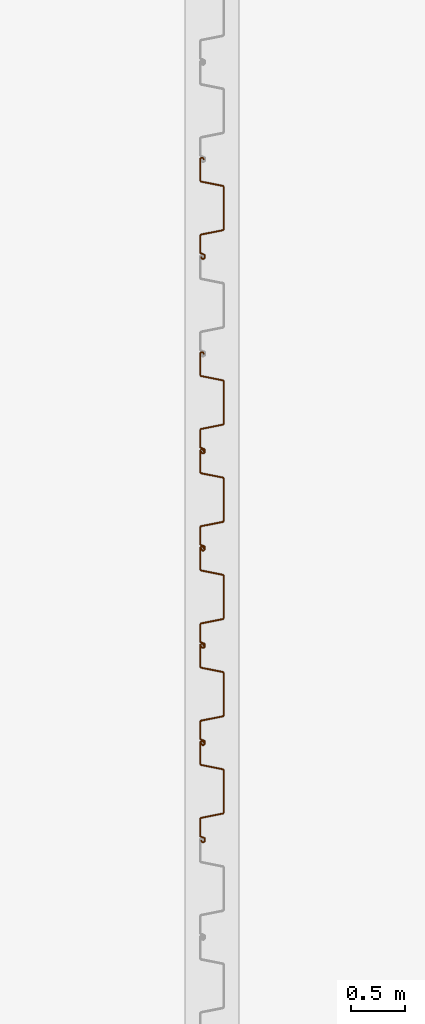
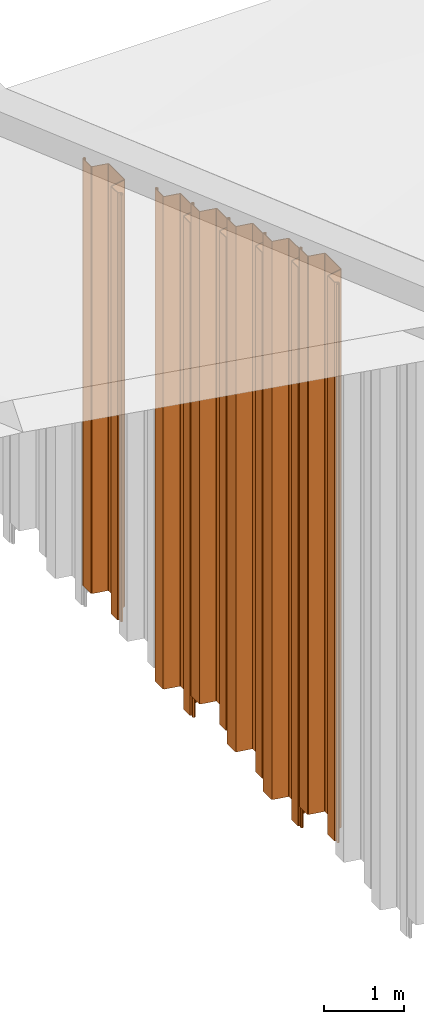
# One storey, part 30 of 32: 6 proxies.
"""IFC2X3 building model written with IfcOpenShell, lengths in millimetres."""

from ifc_helpers import new_model, entity, si_unit, converted_unit, derived_unit, direction, frame, frame_2d, origin, place, context, subcontext, project, spatial, polyline, circle_curve, parameter, trimmed, segment, composite_curve, outline, extrude, source, transform, mapped, type_object, type_shapes, element, save


model = new_model("IFC2X3")

# Units and contexts
model_context = context("Model", 3, precision=0.01, world=origin(), true_north=direction((6.12303176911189e-17, 1.0)))
body_context = subcontext(model_context, "Body", "Model", "MODEL_VIEW")
ifc_project = project(units=[si_unit("LENGTHUNIT", "METRE", prefix="MILLI"), si_unit("AREAUNIT", "SQUARE_METRE"), si_unit("VOLUMEUNIT", "CUBIC_METRE"), converted_unit("PLANEANGLEUNIT", "DEGREE", entity("IfcRatioMeasure", 0.0174532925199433), si_unit("PLANEANGLEUNIT", "RADIAN"), dimensions=[0, 0, 0, 0, 0, 0, 0]), si_unit("MASSUNIT", "GRAM", prefix="KILO"), derived_unit("MASSDENSITYUNIT", [(si_unit("MASSUNIT", "GRAM", prefix="KILO"), 1), (si_unit("LENGTHUNIT", "METRE"), -3)]), si_unit("TIMEUNIT", "SECOND"), si_unit("FREQUENCYUNIT", "HERTZ"), si_unit("THERMODYNAMICTEMPERATUREUNIT", "DEGREE_CELSIUS"), derived_unit("THERMALTRANSMITTANCEUNIT", [(si_unit("MASSUNIT", "GRAM", prefix="KILO"), 1), (si_unit("THERMODYNAMICTEMPERATUREUNIT", "KELVIN"), -1), (si_unit("TIMEUNIT", "SECOND"), -3)]), derived_unit("VOLUMETRICFLOWRATEUNIT", [(si_unit("LENGTHUNIT", "METRE"), 3), (si_unit("TIMEUNIT", "SECOND"), -1)]), si_unit("ELECTRICCURRENTUNIT", "AMPERE"), si_unit("ELECTRICVOLTAGEUNIT", "VOLT"), si_unit("POWERUNIT", "WATT"), si_unit("FORCEUNIT", "NEWTON", prefix="KILO"), si_unit("ILLUMINANCEUNIT", "LUX"), si_unit("LUMINOUSFLUXUNIT", "LUMEN"), si_unit("LUMINOUSINTENSITYUNIT", "CANDELA"), derived_unit("USERDEFINED", [(si_unit("MASSUNIT", "GRAM", prefix="KILO"), -1), (si_unit("LENGTHUNIT", "METRE"), -2), (si_unit("TIMEUNIT", "SECOND"), 3), (si_unit("LUMINOUSFLUXUNIT", "LUMEN"), 1)]), derived_unit("LINEARVELOCITYUNIT", [(si_unit("LENGTHUNIT", "METRE"), 1), (si_unit("TIMEUNIT", "SECOND"), -1)]), si_unit("PRESSUREUNIT", "PASCAL"), derived_unit("USERDEFINED", [(si_unit("LENGTHUNIT", "METRE"), -2), (si_unit("MASSUNIT", "GRAM", prefix="KILO"), 1), (si_unit("TIMEUNIT", "SECOND"), -2)])], contexts=[model_context])

# Site, building, storey
site_placement = place(None, origin())
site = spatial("IfcSite", under=ifc_project, at=site_placement, Name="Default", CompositionType="ELEMENT")
building_placement = place(site_placement, origin())
building = spatial("IfcBuilding", under=site, at=building_placement, CompositionType="ELEMENT")
storey_placement = place(building_placement, origin())
storey = spatial("IfcBuildingStorey", under=building, at=storey_placement, Name="矢板", CompositionType="ELEMENT", Elevation=0.0)

# Proxies
building_element_proxy_type_1 = type_object("IfcBuildingElementProxyType", Name="鋼矢板10H型", PredefinedType="NOTDEFINED")
shared_shape_1 = source(origin(), body_context, "Body", "SweptSolid", [
    extrude(outline(composite_curve([segment(trimmed(circle_curve(frame_2d((85.3662976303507, 306.644432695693), x_axis=(0.422618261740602, 0.906307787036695)), 13.885714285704), [parameter(24.9999999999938)], [parameter(90.0000000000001)], True, "PARAMETER"), True, "CONTINUOUS"), segment(polyline([(72.7815666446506, 312.512789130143), (9.8129512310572, 177.476157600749)]), True, "CONTINUOUS"), segment(trimmed(circle_curve(frame_2d((29.3891994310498, 168.347603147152), x_axis=(0.422618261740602, 0.906307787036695)), 21.6), [parameter(90.0000000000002)], [parameter(168.69006752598)], True, "PARAMETER"), True, "CONTINUOUS"), segment(polyline([(16.598697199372, 150.941769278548), (175.329723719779, 34.2998683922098)]), True, "CONTINUOUS"), segment(trimmed(circle_curve(frame_2d((168.93447260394, 25.596951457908), x_axis=(0.422618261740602, 0.906307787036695)), 10.7999999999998), [parameter(270.0)], [parameter(348.690067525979)], True, "PARAMETER"), False, "CONTINUOUS"), segment(polyline([(178.722596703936, 21.0326742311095), (18.2974003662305, -323.000269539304)]), True, "CONTINUOUS"), segment(trimmed(circle_curve(frame_2d((8.50927626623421, -318.435992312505), x_axis=(0.422618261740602, 0.906307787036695)), 10.8), [parameter(191.30993247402)], [parameter(269.999999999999)], True, "PARAMETER"), False, "CONTINUOUS"), segment(polyline([(5.95324328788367, -328.929166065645), (-185.429973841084, -282.310113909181)]), True, "CONTINUOUS"), segment(trimmed(circle_curve(frame_2d((-190.542039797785, -303.296461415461), x_axis=(0.422618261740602, 0.906307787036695)), 21.6000000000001), [parameter(11.3099324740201)], [parameter(90.0000000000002)], True, "PARAMETER"), True, "CONTINUOUS"), segment(polyline([(-210.118287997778, -294.167906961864), (-290.330886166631, -466.184378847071)]), True, "CONTINUOUS"), segment(trimmed(circle_curve(frame_2d((-270.754637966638, -475.312933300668), x_axis=(0.422618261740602, 0.906307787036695)), 21.6), [parameter(90.0000000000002)], [parameter(269.999999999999)], True, "PARAMETER"), True, "CONTINUOUS"), segment(polyline([(-251.178389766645, -484.441487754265), (-249.065298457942, -479.909948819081)]), True, "CONTINUOUS"), segment(polyline([(-249.065298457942, -479.909948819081), (-258.853422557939, -475.345671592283)]), True, "CONTINUOUS"), segment(polyline([(-258.853422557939, -475.345671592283), (-260.966513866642, -479.877210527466)]), True, "CONTINUOUS"), segment(trimmed(circle_curve(frame_2d((-270.754637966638, -475.312933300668), x_axis=(0.422618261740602, 0.906307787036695)), 10.8), [parameter(90.0000000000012)], [parameter(270.0)], True, "PARAMETER"), False, "CONTINUOUS"), segment(polyline([(-280.542762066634, -470.748656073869), (-200.330163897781, -298.732184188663)]), True, "CONTINUOUS"), segment(trimmed(circle_curve(frame_2d((-190.542039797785, -303.296461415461), x_axis=(0.422618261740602, 0.906307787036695)), 10.8), [parameter(11.3099324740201)], [parameter(89.9999999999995)], True, "PARAMETER"), False, "CONTINUOUS"), segment(polyline([(-187.986006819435, -292.803287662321), (3.39721030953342, -339.422339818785)]), True, "CONTINUOUS"), segment(trimmed(circle_curve(frame_2d((8.50927626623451, -318.435992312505), x_axis=(0.422618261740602, 0.906307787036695)), 21.6), [parameter(191.30993247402)], [parameter(270.0)], True, "PARAMETER"), True, "CONTINUOUS"), segment(polyline([(28.0855244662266, -327.564546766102), (188.510720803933, 16.4683970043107)]), True, "CONTINUOUS"), segment(trimmed(circle_curve(frame_2d((168.93447260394, 25.5969514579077), x_axis=(0.422618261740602, 0.906307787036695)), 21.6), [parameter(270.0)], [parameter(348.69006752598)], True, "PARAMETER"), True, "CONTINUOUS"), segment(polyline([(181.724974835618, 43.0027853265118), (22.9939483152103, 159.644686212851)]), True, "CONTINUOUS"), segment(trimmed(circle_curve(frame_2d((29.3891994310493, 168.347603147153), x_axis=(0.422618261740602, 0.906307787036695)), 10.7999999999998), [parameter(89.9999999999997)], [parameter(168.690067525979)], True, "PARAMETER"), False, "CONTINUOUS"), segment(polyline([(19.6010753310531, 172.911880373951), (82.5696907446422, 307.948511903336)]), True, "CONTINUOUS"), segment(trimmed(circle_curve(frame_2d((85.3662976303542, 306.64443269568), x_axis=(0.422618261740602, 0.906307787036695)), 3.08571428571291), [parameter(25.0000000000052)], [parameter(90.0000000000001)], True, "PARAMETER"), False, "CONTINUOUS"), segment(polyline([(85.3662976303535, 309.730146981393), (122.220231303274, 309.730146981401)]), True, "CONTINUOUS"), segment(trimmed(circle_curve(frame_2d((122.220231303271, 323.615861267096), x_axis=(0.422618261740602, 0.906307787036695)), 13.8857142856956), [parameter(205.000000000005)], [parameter(270.0)], True, "PARAMETER"), True, "CONTINUOUS"), segment(polyline([(134.804962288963, 317.747504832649), (141.079261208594, 331.202782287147)]), True, "CONTINUOUS"), segment(trimmed(circle_curve(frame_2d((121.503013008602, 340.331336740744), x_axis=(0.422618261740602, 0.906307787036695)), 21.6), [parameter(270.0)], [parameter(90.0000000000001)], True, "PARAMETER"), True, "CONTINUOUS"), segment(polyline([(101.926764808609, 349.459891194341), (99.8136734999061, 344.928352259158)]), True, "CONTINUOUS"), segment(polyline([(99.8136734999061, 344.928352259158), (109.601797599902, 340.364075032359)]), True, "CONTINUOUS"), segment(polyline([(109.601797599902, 340.364075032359), (111.714888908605, 344.895613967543)]), True, "CONTINUOUS"), segment(trimmed(circle_curve(frame_2d((121.503013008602, 340.331336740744), x_axis=(0.422618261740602, 0.906307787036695)), 10.8), [parameter(270.0)], [parameter(89.9999999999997)], True, "PARAMETER"), False, "CONTINUOUS"), segment(polyline([(131.291137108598, 335.767059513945), (125.01683818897, 322.311782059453)]), True, "CONTINUOUS"), segment(trimmed(circle_curve(frame_2d((122.220231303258, 323.615861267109), x_axis=(0.422618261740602, 0.906307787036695)), 3.08571428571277), [parameter(204.999999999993)], [parameter(270.0)], True, "PARAMETER"), False, "CONTINUOUS"), segment(polyline([(122.220231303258, 320.530146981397), (85.3662976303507, 320.530146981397)]), True, "CONTINUOUS")], self_intersect=False)), frame((95.205667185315, -48.8888888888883, -6500.0), z_axis=(0.0, 0.0, -1.0), x_axis=(0.4226182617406, 0.906307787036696, 0.0)), (0.0, 0.0, -1.0), 6500.0),
])
type_shapes(building_element_proxy_type_1, [shared_shape_1])
proxy_1_placement = place(storey_placement, frame((148500.0, 25451.0, 8807.0), z_axis=(0.0, 0.0, 1.0), x_axis=(0.0, -1.0, 0.0)))
element("IfcBuildingElementProxy", 1, at=proxy_1_placement, inside=storey, type_object=building_element_proxy_type_1, Name="鋼矢板10H型:鋼矢板10H型", ObjectType="鋼矢板10H型:鋼矢板10H型", context=body_context, shape_type="MappedRepresentation", body=[
    mapped(shared_shape_1, transform((0.0, 0.0, 0.0), scale=1.0)),
])
building_element_proxy_type_2 = type_object("IfcBuildingElementProxyType", Name="鋼矢板10H型", PredefinedType="NOTDEFINED")
shared_shape_2 = source(origin(), body_context, "Body", "SweptSolid", [
    extrude(outline(composite_curve([segment(trimmed(circle_curve(frame_2d((85.3662976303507, 306.644432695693), x_axis=(0.422618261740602, 0.906307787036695)), 13.885714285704), [parameter(24.9999999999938)], [parameter(90.0000000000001)], True, "PARAMETER"), True, "CONTINUOUS"), segment(polyline([(72.7815666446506, 312.512789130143), (9.8129512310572, 177.476157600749)]), True, "CONTINUOUS"), segment(trimmed(circle_curve(frame_2d((29.3891994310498, 168.347603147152), x_axis=(0.422618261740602, 0.906307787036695)), 21.6), [parameter(90.0000000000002)], [parameter(168.69006752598)], True, "PARAMETER"), True, "CONTINUOUS"), segment(polyline([(16.598697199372, 150.941769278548), (175.329723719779, 34.2998683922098)]), True, "CONTINUOUS"), segment(trimmed(circle_curve(frame_2d((168.93447260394, 25.596951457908), x_axis=(0.422618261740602, 0.906307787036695)), 10.7999999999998), [parameter(270.0)], [parameter(348.690067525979)], True, "PARAMETER"), False, "CONTINUOUS"), segment(polyline([(178.722596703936, 21.0326742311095), (18.2974003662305, -323.000269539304)]), True, "CONTINUOUS"), segment(trimmed(circle_curve(frame_2d((8.50927626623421, -318.435992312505), x_axis=(0.422618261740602, 0.906307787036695)), 10.8), [parameter(191.30993247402)], [parameter(269.999999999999)], True, "PARAMETER"), False, "CONTINUOUS"), segment(polyline([(5.95324328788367, -328.929166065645), (-185.429973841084, -282.310113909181)]), True, "CONTINUOUS"), segment(trimmed(circle_curve(frame_2d((-190.542039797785, -303.296461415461), x_axis=(0.422618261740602, 0.906307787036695)), 21.6000000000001), [parameter(11.3099324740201)], [parameter(90.0000000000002)], True, "PARAMETER"), True, "CONTINUOUS"), segment(polyline([(-210.118287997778, -294.167906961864), (-290.330886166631, -466.184378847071)]), True, "CONTINUOUS"), segment(trimmed(circle_curve(frame_2d((-270.754637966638, -475.312933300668), x_axis=(0.422618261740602, 0.906307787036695)), 21.6), [parameter(90.0000000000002)], [parameter(269.999999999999)], True, "PARAMETER"), True, "CONTINUOUS"), segment(polyline([(-251.178389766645, -484.441487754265), (-249.065298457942, -479.909948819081)]), True, "CONTINUOUS"), segment(polyline([(-249.065298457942, -479.909948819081), (-258.853422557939, -475.345671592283)]), True, "CONTINUOUS"), segment(polyline([(-258.853422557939, -475.345671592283), (-260.966513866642, -479.877210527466)]), True, "CONTINUOUS"), segment(trimmed(circle_curve(frame_2d((-270.754637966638, -475.312933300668), x_axis=(0.422618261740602, 0.906307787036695)), 10.8), [parameter(90.0000000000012)], [parameter(270.0)], True, "PARAMETER"), False, "CONTINUOUS"), segment(polyline([(-280.542762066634, -470.748656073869), (-200.330163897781, -298.732184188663)]), True, "CONTINUOUS"), segment(trimmed(circle_curve(frame_2d((-190.542039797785, -303.296461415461), x_axis=(0.422618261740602, 0.906307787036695)), 10.8), [parameter(11.3099324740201)], [parameter(89.9999999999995)], True, "PARAMETER"), False, "CONTINUOUS"), segment(polyline([(-187.986006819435, -292.803287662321), (3.39721030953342, -339.422339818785)]), True, "CONTINUOUS"), segment(trimmed(circle_curve(frame_2d((8.50927626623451, -318.435992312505), x_axis=(0.422618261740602, 0.906307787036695)), 21.6), [parameter(191.30993247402)], [parameter(270.0)], True, "PARAMETER"), True, "CONTINUOUS"), segment(polyline([(28.0855244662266, -327.564546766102), (188.510720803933, 16.4683970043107)]), True, "CONTINUOUS"), segment(trimmed(circle_curve(frame_2d((168.93447260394, 25.5969514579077), x_axis=(0.422618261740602, 0.906307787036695)), 21.6), [parameter(270.0)], [parameter(348.69006752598)], True, "PARAMETER"), True, "CONTINUOUS"), segment(polyline([(181.724974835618, 43.0027853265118), (22.9939483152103, 159.644686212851)]), True, "CONTINUOUS"), segment(trimmed(circle_curve(frame_2d((29.3891994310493, 168.347603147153), x_axis=(0.422618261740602, 0.906307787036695)), 10.7999999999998), [parameter(89.9999999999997)], [parameter(168.690067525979)], True, "PARAMETER"), False, "CONTINUOUS"), segment(polyline([(19.6010753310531, 172.911880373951), (82.5696907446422, 307.948511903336)]), True, "CONTINUOUS"), segment(trimmed(circle_curve(frame_2d((85.3662976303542, 306.64443269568), x_axis=(0.422618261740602, 0.906307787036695)), 3.08571428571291), [parameter(25.0000000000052)], [parameter(90.0000000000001)], True, "PARAMETER"), False, "CONTINUOUS"), segment(polyline([(85.3662976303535, 309.730146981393), (122.220231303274, 309.730146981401)]), True, "CONTINUOUS"), segment(trimmed(circle_curve(frame_2d((122.220231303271, 323.615861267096), x_axis=(0.422618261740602, 0.906307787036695)), 13.8857142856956), [parameter(205.000000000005)], [parameter(270.0)], True, "PARAMETER"), True, "CONTINUOUS"), segment(polyline([(134.804962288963, 317.747504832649), (141.079261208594, 331.202782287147)]), True, "CONTINUOUS"), segment(trimmed(circle_curve(frame_2d((121.503013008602, 340.331336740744), x_axis=(0.422618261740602, 0.906307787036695)), 21.6), [parameter(270.0)], [parameter(90.0000000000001)], True, "PARAMETER"), True, "CONTINUOUS"), segment(polyline([(101.926764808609, 349.459891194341), (99.8136734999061, 344.928352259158)]), True, "CONTINUOUS"), segment(polyline([(99.8136734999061, 344.928352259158), (109.601797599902, 340.364075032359)]), True, "CONTINUOUS"), segment(polyline([(109.601797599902, 340.364075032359), (111.714888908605, 344.895613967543)]), True, "CONTINUOUS"), segment(trimmed(circle_curve(frame_2d((121.503013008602, 340.331336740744), x_axis=(0.422618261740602, 0.906307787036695)), 10.8), [parameter(270.0)], [parameter(89.9999999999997)], True, "PARAMETER"), False, "CONTINUOUS"), segment(polyline([(131.291137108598, 335.767059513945), (125.01683818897, 322.311782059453)]), True, "CONTINUOUS"), segment(trimmed(circle_curve(frame_2d((122.220231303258, 323.615861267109), x_axis=(0.422618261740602, 0.906307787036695)), 3.08571428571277), [parameter(204.999999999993)], [parameter(270.0)], True, "PARAMETER"), False, "CONTINUOUS"), segment(polyline([(122.220231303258, 320.530146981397), (85.3662976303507, 320.530146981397)]), True, "CONTINUOUS")], self_intersect=False)), frame((95.205667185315, -48.8888888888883, -7500.0), z_axis=(0.0, 0.0, -1.0), x_axis=(0.4226182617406, 0.906307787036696, 0.0)), (0.0, 0.0, -1.0), 7500.0),
])
type_shapes(building_element_proxy_type_2, [shared_shape_2])
for number, where, z_axis, x_axis in (
    (2, (148500.0, 23651.0, 9444.0), (0.0, 0.0, 1.0), (0.0, -1.0, 0.0)),
    (3, (148500.0, 22751.0, 9763.0), (0.0, 0.0, 1.0), (0.0, -1.0, 0.0)),
):
    element("IfcBuildingElementProxy", number, at=place(storey_placement, frame(where, z_axis=z_axis, x_axis=x_axis)), inside=storey, type_object=building_element_proxy_type_2, Name="鋼矢板10H型:鋼矢板10H型", ObjectType="鋼矢板10H型:鋼矢板10H型", context=body_context, shape_type="MappedRepresentation", body=[
        mapped(shared_shape_2, transform((0.0, 0.0, 0.0), scale=1.0)),
    ])
building_element_proxy_type_3 = type_object("IfcBuildingElementProxyType", Name="鋼矢板10H型", PredefinedType="NOTDEFINED")
shared_shape_3 = source(origin(), body_context, "Body", "SweptSolid", [
    extrude(outline(composite_curve([segment(trimmed(circle_curve(frame_2d((85.3662976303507, 306.644432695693), x_axis=(0.422618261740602, 0.906307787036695)), 13.885714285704), [parameter(24.9999999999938)], [parameter(90.0000000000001)], True, "PARAMETER"), True, "CONTINUOUS"), segment(polyline([(72.7815666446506, 312.512789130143), (9.8129512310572, 177.476157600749)]), True, "CONTINUOUS"), segment(trimmed(circle_curve(frame_2d((29.3891994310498, 168.347603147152), x_axis=(0.422618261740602, 0.906307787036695)), 21.6), [parameter(90.0000000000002)], [parameter(168.69006752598)], True, "PARAMETER"), True, "CONTINUOUS"), segment(polyline([(16.598697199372, 150.941769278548), (175.329723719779, 34.2998683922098)]), True, "CONTINUOUS"), segment(trimmed(circle_curve(frame_2d((168.93447260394, 25.596951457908), x_axis=(0.422618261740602, 0.906307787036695)), 10.7999999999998), [parameter(270.0)], [parameter(348.690067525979)], True, "PARAMETER"), False, "CONTINUOUS"), segment(polyline([(178.722596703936, 21.0326742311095), (18.2974003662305, -323.000269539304)]), True, "CONTINUOUS"), segment(trimmed(circle_curve(frame_2d((8.50927626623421, -318.435992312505), x_axis=(0.422618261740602, 0.906307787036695)), 10.8), [parameter(191.30993247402)], [parameter(269.999999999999)], True, "PARAMETER"), False, "CONTINUOUS"), segment(polyline([(5.95324328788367, -328.929166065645), (-185.429973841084, -282.310113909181)]), True, "CONTINUOUS"), segment(trimmed(circle_curve(frame_2d((-190.542039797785, -303.296461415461), x_axis=(0.422618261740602, 0.906307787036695)), 21.6000000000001), [parameter(11.3099324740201)], [parameter(90.0000000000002)], True, "PARAMETER"), True, "CONTINUOUS"), segment(polyline([(-210.118287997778, -294.167906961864), (-290.330886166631, -466.184378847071)]), True, "CONTINUOUS"), segment(trimmed(circle_curve(frame_2d((-270.754637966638, -475.312933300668), x_axis=(0.422618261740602, 0.906307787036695)), 21.6), [parameter(90.0000000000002)], [parameter(269.999999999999)], True, "PARAMETER"), True, "CONTINUOUS"), segment(polyline([(-251.178389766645, -484.441487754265), (-249.065298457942, -479.909948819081)]), True, "CONTINUOUS"), segment(polyline([(-249.065298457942, -479.909948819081), (-258.853422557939, -475.345671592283)]), True, "CONTINUOUS"), segment(polyline([(-258.853422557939, -475.345671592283), (-260.966513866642, -479.877210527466)]), True, "CONTINUOUS"), segment(trimmed(circle_curve(frame_2d((-270.754637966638, -475.312933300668), x_axis=(0.422618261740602, 0.906307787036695)), 10.8), [parameter(90.0000000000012)], [parameter(270.0)], True, "PARAMETER"), False, "CONTINUOUS"), segment(polyline([(-280.542762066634, -470.748656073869), (-200.330163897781, -298.732184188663)]), True, "CONTINUOUS"), segment(trimmed(circle_curve(frame_2d((-190.542039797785, -303.296461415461), x_axis=(0.422618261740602, 0.906307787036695)), 10.8), [parameter(11.3099324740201)], [parameter(89.9999999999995)], True, "PARAMETER"), False, "CONTINUOUS"), segment(polyline([(-187.986006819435, -292.803287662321), (3.39721030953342, -339.422339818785)]), True, "CONTINUOUS"), segment(trimmed(circle_curve(frame_2d((8.50927626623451, -318.435992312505), x_axis=(0.422618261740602, 0.906307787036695)), 21.6), [parameter(191.30993247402)], [parameter(270.0)], True, "PARAMETER"), True, "CONTINUOUS"), segment(polyline([(28.0855244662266, -327.564546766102), (188.510720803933, 16.4683970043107)]), True, "CONTINUOUS"), segment(trimmed(circle_curve(frame_2d((168.93447260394, 25.5969514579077), x_axis=(0.422618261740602, 0.906307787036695)), 21.6), [parameter(270.0)], [parameter(348.69006752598)], True, "PARAMETER"), True, "CONTINUOUS"), segment(polyline([(181.724974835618, 43.0027853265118), (22.9939483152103, 159.644686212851)]), True, "CONTINUOUS"), segment(trimmed(circle_curve(frame_2d((29.3891994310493, 168.347603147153), x_axis=(0.422618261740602, 0.906307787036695)), 10.7999999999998), [parameter(89.9999999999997)], [parameter(168.690067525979)], True, "PARAMETER"), False, "CONTINUOUS"), segment(polyline([(19.6010753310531, 172.911880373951), (82.5696907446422, 307.948511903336)]), True, "CONTINUOUS"), segment(trimmed(circle_curve(frame_2d((85.3662976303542, 306.64443269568), x_axis=(0.422618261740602, 0.906307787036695)), 3.08571428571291), [parameter(25.0000000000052)], [parameter(90.0000000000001)], True, "PARAMETER"), False, "CONTINUOUS"), segment(polyline([(85.3662976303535, 309.730146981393), (122.220231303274, 309.730146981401)]), True, "CONTINUOUS"), segment(trimmed(circle_curve(frame_2d((122.220231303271, 323.615861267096), x_axis=(0.422618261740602, 0.906307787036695)), 13.8857142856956), [parameter(205.000000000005)], [parameter(270.0)], True, "PARAMETER"), True, "CONTINUOUS"), segment(polyline([(134.804962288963, 317.747504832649), (141.079261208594, 331.202782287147)]), True, "CONTINUOUS"), segment(trimmed(circle_curve(frame_2d((121.503013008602, 340.331336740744), x_axis=(0.422618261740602, 0.906307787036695)), 21.6), [parameter(270.0)], [parameter(90.0000000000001)], True, "PARAMETER"), True, "CONTINUOUS"), segment(polyline([(101.926764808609, 349.459891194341), (99.8136734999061, 344.928352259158)]), True, "CONTINUOUS"), segment(polyline([(99.8136734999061, 344.928352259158), (109.601797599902, 340.364075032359)]), True, "CONTINUOUS"), segment(polyline([(109.601797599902, 340.364075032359), (111.714888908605, 344.895613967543)]), True, "CONTINUOUS"), segment(trimmed(circle_curve(frame_2d((121.503013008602, 340.331336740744), x_axis=(0.422618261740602, 0.906307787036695)), 10.8), [parameter(270.0)], [parameter(89.9999999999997)], True, "PARAMETER"), False, "CONTINUOUS"), segment(polyline([(131.291137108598, 335.767059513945), (125.01683818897, 322.311782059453)]), True, "CONTINUOUS"), segment(trimmed(circle_curve(frame_2d((122.220231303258, 323.615861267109), x_axis=(0.422618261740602, 0.906307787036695)), 3.08571428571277), [parameter(204.999999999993)], [parameter(270.0)], True, "PARAMETER"), False, "CONTINUOUS"), segment(polyline([(122.220231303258, 320.530146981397), (85.3662976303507, 320.530146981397)]), True, "CONTINUOUS")], self_intersect=False)), frame((95.205667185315, -48.8888888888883, -8000.0), z_axis=(0.0, 0.0, -1.0), x_axis=(0.4226182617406, 0.906307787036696, 0.0)), (0.0, 0.0, -1.0), 8000.0),
])
type_shapes(building_element_proxy_type_3, [shared_shape_3])
proxy_2_placement = place(storey_placement, frame((148500.0, 21851.0, 10081.0), z_axis=(0.0, 0.0, 1.0), x_axis=(0.0, -1.0, 0.0)))
element("IfcBuildingElementProxy", 4, at=proxy_2_placement, inside=storey, type_object=building_element_proxy_type_3, Name="鋼矢板10H型:鋼矢板10H型", ObjectType="鋼矢板10H型:鋼矢板10H型", context=body_context, shape_type="MappedRepresentation", body=[
    mapped(shared_shape_3, transform((0.0, 0.0, 0.0), scale=1.0)),
])
building_element_proxy_type_4 = type_object("IfcBuildingElementProxyType", Name="鋼矢板10H型", PredefinedType="NOTDEFINED")
shared_shape_4 = source(origin(), body_context, "Body", "SweptSolid", [
    extrude(outline(composite_curve([segment(trimmed(circle_curve(frame_2d((85.3662976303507, 306.644432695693), x_axis=(0.422618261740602, 0.906307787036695)), 13.885714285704), [parameter(24.9999999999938)], [parameter(90.0000000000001)], True, "PARAMETER"), True, "CONTINUOUS"), segment(polyline([(72.7815666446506, 312.512789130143), (9.8129512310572, 177.476157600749)]), True, "CONTINUOUS"), segment(trimmed(circle_curve(frame_2d((29.3891994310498, 168.347603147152), x_axis=(0.422618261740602, 0.906307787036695)), 21.6), [parameter(90.0000000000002)], [parameter(168.69006752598)], True, "PARAMETER"), True, "CONTINUOUS"), segment(polyline([(16.598697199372, 150.941769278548), (175.329723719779, 34.2998683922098)]), True, "CONTINUOUS"), segment(trimmed(circle_curve(frame_2d((168.93447260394, 25.596951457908), x_axis=(0.422618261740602, 0.906307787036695)), 10.7999999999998), [parameter(270.0)], [parameter(348.690067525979)], True, "PARAMETER"), False, "CONTINUOUS"), segment(polyline([(178.722596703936, 21.0326742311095), (18.2974003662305, -323.000269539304)]), True, "CONTINUOUS"), segment(trimmed(circle_curve(frame_2d((8.50927626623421, -318.435992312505), x_axis=(0.422618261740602, 0.906307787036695)), 10.8), [parameter(191.30993247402)], [parameter(269.999999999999)], True, "PARAMETER"), False, "CONTINUOUS"), segment(polyline([(5.95324328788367, -328.929166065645), (-185.429973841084, -282.310113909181)]), True, "CONTINUOUS"), segment(trimmed(circle_curve(frame_2d((-190.542039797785, -303.296461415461), x_axis=(0.422618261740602, 0.906307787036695)), 21.6000000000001), [parameter(11.3099324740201)], [parameter(90.0000000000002)], True, "PARAMETER"), True, "CONTINUOUS"), segment(polyline([(-210.118287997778, -294.167906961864), (-290.330886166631, -466.184378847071)]), True, "CONTINUOUS"), segment(trimmed(circle_curve(frame_2d((-270.754637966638, -475.312933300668), x_axis=(0.422618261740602, 0.906307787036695)), 21.6), [parameter(90.0000000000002)], [parameter(269.999999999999)], True, "PARAMETER"), True, "CONTINUOUS"), segment(polyline([(-251.178389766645, -484.441487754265), (-249.065298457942, -479.909948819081)]), True, "CONTINUOUS"), segment(polyline([(-249.065298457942, -479.909948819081), (-258.853422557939, -475.345671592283)]), True, "CONTINUOUS"), segment(polyline([(-258.853422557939, -475.345671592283), (-260.966513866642, -479.877210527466)]), True, "CONTINUOUS"), segment(trimmed(circle_curve(frame_2d((-270.754637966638, -475.312933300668), x_axis=(0.422618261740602, 0.906307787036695)), 10.8), [parameter(90.0000000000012)], [parameter(270.0)], True, "PARAMETER"), False, "CONTINUOUS"), segment(polyline([(-280.542762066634, -470.748656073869), (-200.330163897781, -298.732184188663)]), True, "CONTINUOUS"), segment(trimmed(circle_curve(frame_2d((-190.542039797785, -303.296461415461), x_axis=(0.422618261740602, 0.906307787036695)), 10.8), [parameter(11.3099324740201)], [parameter(89.9999999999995)], True, "PARAMETER"), False, "CONTINUOUS"), segment(polyline([(-187.986006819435, -292.803287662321), (3.39721030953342, -339.422339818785)]), True, "CONTINUOUS"), segment(trimmed(circle_curve(frame_2d((8.50927626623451, -318.435992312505), x_axis=(0.422618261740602, 0.906307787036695)), 21.6), [parameter(191.30993247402)], [parameter(270.0)], True, "PARAMETER"), True, "CONTINUOUS"), segment(polyline([(28.0855244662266, -327.564546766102), (188.510720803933, 16.4683970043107)]), True, "CONTINUOUS"), segment(trimmed(circle_curve(frame_2d((168.93447260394, 25.5969514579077), x_axis=(0.422618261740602, 0.906307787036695)), 21.6), [parameter(270.0)], [parameter(348.69006752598)], True, "PARAMETER"), True, "CONTINUOUS"), segment(polyline([(181.724974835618, 43.0027853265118), (22.9939483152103, 159.644686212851)]), True, "CONTINUOUS"), segment(trimmed(circle_curve(frame_2d((29.3891994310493, 168.347603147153), x_axis=(0.422618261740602, 0.906307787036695)), 10.7999999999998), [parameter(89.9999999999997)], [parameter(168.690067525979)], True, "PARAMETER"), False, "CONTINUOUS"), segment(polyline([(19.6010753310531, 172.911880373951), (82.5696907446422, 307.948511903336)]), True, "CONTINUOUS"), segment(trimmed(circle_curve(frame_2d((85.3662976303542, 306.64443269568), x_axis=(0.422618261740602, 0.906307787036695)), 3.08571428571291), [parameter(25.0000000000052)], [parameter(90.0000000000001)], True, "PARAMETER"), False, "CONTINUOUS"), segment(polyline([(85.3662976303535, 309.730146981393), (122.220231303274, 309.730146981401)]), True, "CONTINUOUS"), segment(trimmed(circle_curve(frame_2d((122.220231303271, 323.615861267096), x_axis=(0.422618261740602, 0.906307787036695)), 13.8857142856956), [parameter(205.000000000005)], [parameter(270.0)], True, "PARAMETER"), True, "CONTINUOUS"), segment(polyline([(134.804962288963, 317.747504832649), (141.079261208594, 331.202782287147)]), True, "CONTINUOUS"), segment(trimmed(circle_curve(frame_2d((121.503013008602, 340.331336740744), x_axis=(0.422618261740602, 0.906307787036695)), 21.6), [parameter(270.0)], [parameter(90.0000000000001)], True, "PARAMETER"), True, "CONTINUOUS"), segment(polyline([(101.926764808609, 349.459891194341), (99.8136734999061, 344.928352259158)]), True, "CONTINUOUS"), segment(polyline([(99.8136734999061, 344.928352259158), (109.601797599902, 340.364075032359)]), True, "CONTINUOUS"), segment(polyline([(109.601797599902, 340.364075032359), (111.714888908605, 344.895613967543)]), True, "CONTINUOUS"), segment(trimmed(circle_curve(frame_2d((121.503013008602, 340.331336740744), x_axis=(0.422618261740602, 0.906307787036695)), 10.8), [parameter(270.0)], [parameter(89.9999999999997)], True, "PARAMETER"), False, "CONTINUOUS"), segment(polyline([(131.291137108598, 335.767059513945), (125.01683818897, 322.311782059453)]), True, "CONTINUOUS"), segment(trimmed(circle_curve(frame_2d((122.220231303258, 323.615861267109), x_axis=(0.422618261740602, 0.906307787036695)), 3.08571428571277), [parameter(204.999999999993)], [parameter(270.0)], True, "PARAMETER"), False, "CONTINUOUS"), segment(polyline([(122.220231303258, 320.530146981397), (85.3662976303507, 320.530146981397)]), True, "CONTINUOUS")], self_intersect=False)), frame((95.205667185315, -48.8888888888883, -8500.0), z_axis=(0.0, 0.0, -1.0), x_axis=(0.4226182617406, 0.906307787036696, 0.0)), (0.0, 0.0, -1.0), 8500.0),
])
type_shapes(building_element_proxy_type_4, [shared_shape_4])
for number, where, z_axis, x_axis in (
    (5, (148500.0, 20951.0, 10400.0), (0.0, 0.0, 1.0), (0.0, -1.0, 0.0)),
    (6, (148500.0, 20051.0, 10719.0), (0.0, 0.0, 1.0), (0.0, -1.0, 0.0)),
):
    element("IfcBuildingElementProxy", number, at=place(storey_placement, frame(where, z_axis=z_axis, x_axis=x_axis)), inside=storey, type_object=building_element_proxy_type_4, Name="鋼矢板10H型:鋼矢板10H型", ObjectType="鋼矢板10H型:鋼矢板10H型", context=body_context, shape_type="MappedRepresentation", body=[
        mapped(shared_shape_4, transform((0.0, 0.0, 0.0), scale=1.0)),
    ])

save(model, "model.ifc")
